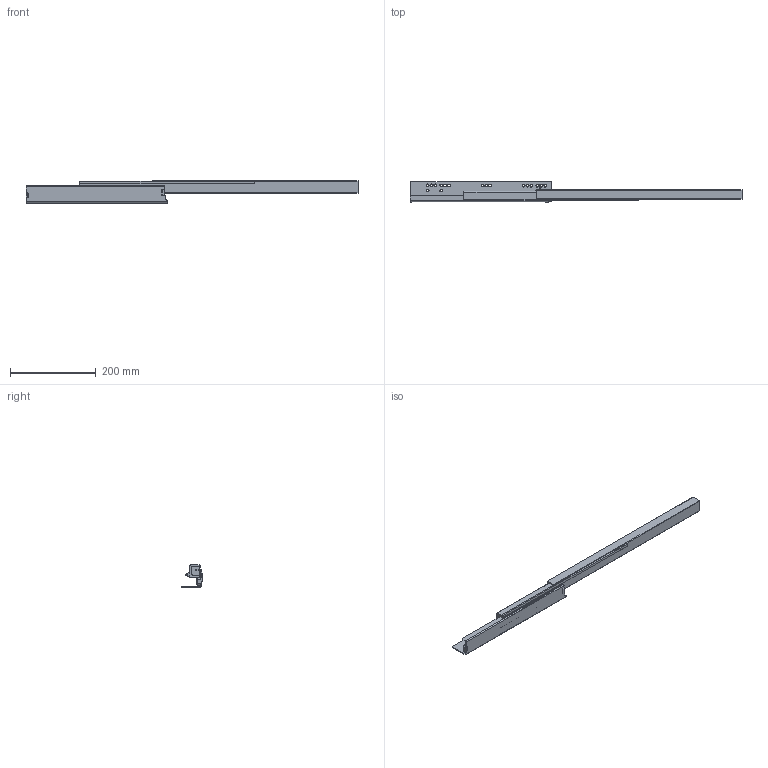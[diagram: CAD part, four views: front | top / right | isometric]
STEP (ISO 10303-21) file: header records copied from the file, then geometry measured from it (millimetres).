
FILE_DESCRIPTION (( 'STEP AP203' ), '1' );
FILE_NAME ('HT105004H-R(´ò¿ª).STEP', '2021-07-31T01:27:28', ( 'Users' ), ( 'Microsoft' ), 'SwSTEP 2.0', 'SolidWorks 2018', '' );
FILE_SCHEMA (( 'CONFIG_CONTROL_DESIGN' ));
Length unit declared in the file: millimetre
Products named in the file (1): HT105004H-R(湖羲)
Bounding box: 774.3 x 47.5 x 51.73 mm (x, y, z)
Volume: 466562.2 mm3; surface area: 130003.7 mm2
Topology: 1 solids, 2 shells, 224 faces, 591 edges, 371 vertices
Faces by surface type: cylinder 97, plane 73, cone 40, torus 12, sphere 2
Entity records: 7082 total; most frequent: DIRECTION 1288, CARTESIAN_POINT 1200, ORIENTED_EDGE 1178, EDGE_CURVE 589, AXIS2_PLACEMENT_3D 479, VERTEX_POINT 371, LINE 330, VECTOR 330
